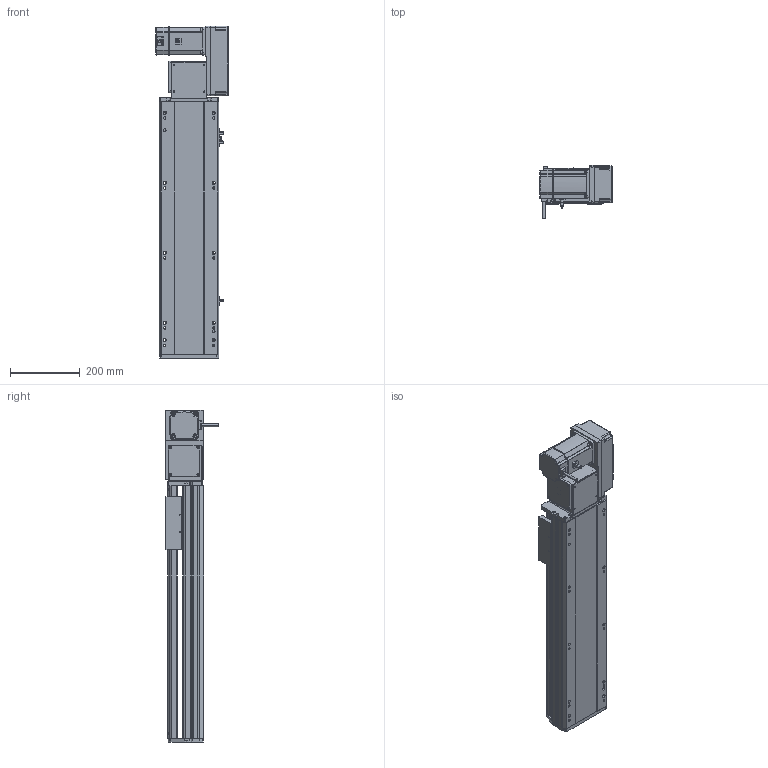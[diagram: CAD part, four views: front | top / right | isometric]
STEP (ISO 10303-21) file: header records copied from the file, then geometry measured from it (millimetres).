
FILE_DESCRIPTION (( 'STEP AP214' ), '1' );
FILE_NAME ('RTB17S-XX-450-R-M75-C4.STEP', '2025-12-12T01:30:30', ( '' ), ( '' ), 'SwSTEP 2.0', 'SolidWorks 2018', '' );
FILE_SCHEMA (( 'AUTOMOTIVE_DESIGN' ));
Length unit declared in the file: millimetre
Products named in the file (15): RTB17-R-011菁釱^RTB17S-XX-XX-R-M75-C4; RTB22S-GY-005P^RTB17S-R-々湍釱蚾饜-750W_RTB17S-XX-XX-R-M75-C4; RTB17S-R-々湍釱蚾饜-750W^RTB17S-XX-XX-R-M75-C4; EE672^RTB17S-XX-XX-R-M75-C4; RTB17S-L-004-賑釱^RTB17S-賑釱_RTB17S-XX-XX-R-M75-C4; RTB22S-GY-008-M75--萇儂啣^RTB17S-R-々湍釱蚾饜-750W_RTB17S-XX-XX-R-M75-C4; 750W萇儂^RTB17S-XX-XX-R-M75-C4; RTB17S-L-001-耜醱啣^RTB17S-XX-XX-R-M75-C4; RTB17S-L-014-T20-P75--々湍釱^RTB17S-R-々湍釱蚾饜-750W_RTB17S-XX-XX-R-M75-C4; RTB17S-賑釱^RTB17S-XX-XX-R-M75-C4; RTB22S-GY-017P^RTB17S-R-々湍釱蚾饜-750W_RTB17S-XX-XX-R-M75-C4; RTB22S-GY-018P^RTB17S-R-々湍釱蚾饜-750W_RTB17S-XX-XX-R-M75-C4; RTH13-BL-012覜茼え俋离^RTB17S-賑釱_RTB17S-XX-XX-R-M75-C4; RTB17S-XX-450-R-M75-C4; RTB17S-L-007奻裔^RTB17S-XX-XX-R-M75-C4
Assembly tree (17 placements, depth 3):
  RTB17S-XX-450-R-M75-C4
    RTB17-R-011菁釱^RTB17S-XX-XX-R-M75-C4
    EE672^RTB17S-XX-XX-R-M75-C4  x3
    RTB17S-L-001-耜醱啣^RTB17S-XX-XX-R-M75-C4
    RTB17S-賑釱^RTB17S-XX-XX-R-M75-C4
      RTB17S-L-004-賑釱^RTB17S-賑釱_RTB17S-XX-XX-R-M75-C4
      RTH13-BL-012覜茼え俋离^RTB17S-賑釱_RTB17S-XX-XX-R-M75-C4
    RTB17S-L-007奻裔^RTB17S-XX-XX-R-M75-C4
    750W萇儂^RTB17S-XX-XX-R-M75-C4
    RTB17S-R-々湍釱蚾饜-750W^RTB17S-XX-XX-R-M75-C4
      RTB17S-L-014-T20-P75--々湍釱^RTB17S-R-々湍釱蚾饜-750W_RTB17S-XX-XX-R-M75-C4
      RTB22S-GY-005P^RTB17S-R-々湍釱蚾饜-750W_RTB17S-XX-XX-R-M75-C4
      RTB22S-GY-017P^RTB17S-R-々湍釱蚾饜-750W_RTB17S-XX-XX-R-M75-C4  x2
      RTB22S-GY-008-M75--萇儂啣^RTB17S-R-々湍釱蚾饜-750W_RTB17S-XX-XX-R-M75-C4
      RTB22S-GY-018P^RTB17S-R-々湍釱蚾饜-750W_RTB17S-XX-XX-R-M75-C4
Bounding box: 207.4 x 152.7 x 949 mm (x, y, z)
Volume: 8757759.5 mm3; surface area: 1397136.6 mm2
Topology: 17 solids, 17 shells, 2057 faces, 5674 edges, 3662 vertices
Faces by surface type: plane 966, cylinder 675, bspline 294, cone 110, sphere 8, torus 4
Entity records: 56566 total; most frequent: CARTESIAN_POINT 16538, ORIENTED_EDGE 8192, DIRECTION 7682, EDGE_CURVE 4096, AXIS2_PLACEMENT_3D 2682, VERTEX_POINT 2666, LINE 2318, VECTOR 2318
